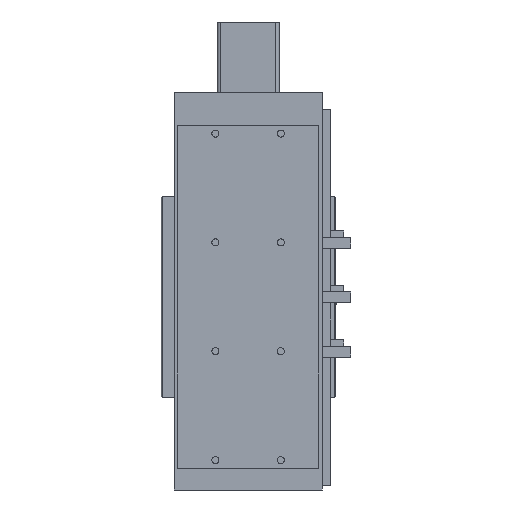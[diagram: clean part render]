
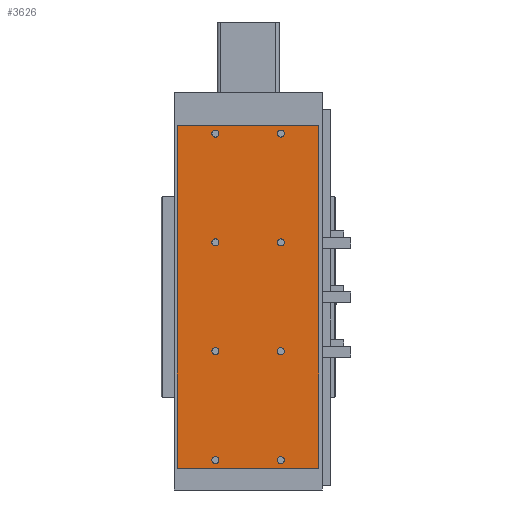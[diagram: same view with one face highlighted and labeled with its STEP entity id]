
A CAD part, front view. The second image highlights one B-rep face of the part: STEP entity #3626.
In plain terms, the highlighted planar face has unit normal (0, -1, 0).
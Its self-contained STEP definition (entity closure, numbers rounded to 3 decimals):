
#2145=CARTESIAN_POINT('',(-33.25,0.0,307.5));
#2146=VERTEX_POINT('',#2145);
#2147=CARTESIAN_POINT('',(-30.,0.0,307.5));
#2148=DIRECTION('',(0.0,1.0,0.0));
#2149=DIRECTION('',(1.0,0.0,0.0));
#2150=AXIS2_PLACEMENT_3D('',#2147,#2148,#2149);
#2151=CIRCLE('',#2150,3.25);
#2152=EDGE_CURVE('',#2146,#2146,#2151,.T.);
#2324=CARTESIAN_POINT('',(26.75,0.0,307.5));
#2325=VERTEX_POINT('',#2324);
#2326=CARTESIAN_POINT('',(30.,0.0,307.5));
#2327=DIRECTION('',(0.0,1.0,0.0));
#2328=DIRECTION('',(1.0,0.0,0.0));
#2329=AXIS2_PLACEMENT_3D('',#2326,#2327,#2328);
#2330=CIRCLE('',#2329,3.25);
#2331=EDGE_CURVE('',#2325,#2325,#2330,.T.);
#2365=CARTESIAN_POINT('',(-33.25,0.0,107.5));
#2366=VERTEX_POINT('',#2365);
#2367=CARTESIAN_POINT('',(-30.,0.0,107.5));
#2368=DIRECTION('',(0.0,1.0,0.0));
#2369=DIRECTION('',(1.0,0.0,0.0));
#2370=AXIS2_PLACEMENT_3D('',#2367,#2368,#2369);
#2371=CIRCLE('',#2370,3.25);
#2372=EDGE_CURVE('',#2366,#2366,#2371,.T.);
#2544=CARTESIAN_POINT('',(26.75,0.0,107.5));
#2545=VERTEX_POINT('',#2544);
#2546=CARTESIAN_POINT('',(30.,0.0,107.5));
#2547=DIRECTION('',(0.0,1.0,0.0));
#2548=DIRECTION('',(1.0,0.0,0.0));
#2549=AXIS2_PLACEMENT_3D('',#2546,#2547,#2548);
#2550=CIRCLE('',#2549,3.25);
#2551=EDGE_CURVE('',#2545,#2545,#2550,.T.);
#2585=CARTESIAN_POINT('',(-33.25,0.0,7.5));
#2586=VERTEX_POINT('',#2585);
#2587=CARTESIAN_POINT('',(-30.,0.0,7.5));
#2588=DIRECTION('',(0.0,1.0,0.0));
#2589=DIRECTION('',(1.0,0.0,0.0));
#2590=AXIS2_PLACEMENT_3D('',#2587,#2588,#2589);
#2591=CIRCLE('',#2590,3.25);
#2592=EDGE_CURVE('',#2586,#2586,#2591,.T.);
#2764=CARTESIAN_POINT('',(26.75,0.0,7.5));
#2765=VERTEX_POINT('',#2764);
#2766=CARTESIAN_POINT('',(30.,0.0,7.5));
#2767=DIRECTION('',(0.0,1.0,0.0));
#2768=DIRECTION('',(1.0,0.0,0.0));
#2769=AXIS2_PLACEMENT_3D('',#2766,#2767,#2768);
#2770=CIRCLE('',#2769,3.25);
#2771=EDGE_CURVE('',#2765,#2765,#2770,.T.);
#2874=CARTESIAN_POINT('',(26.75,0.0,207.5));
#2875=VERTEX_POINT('',#2874);
#2876=CARTESIAN_POINT('',(30.,0.0,207.5));
#2877=DIRECTION('',(0.0,1.0,0.0));
#2878=DIRECTION('',(1.0,0.0,0.0));
#2879=AXIS2_PLACEMENT_3D('',#2876,#2877,#2878);
#2880=CIRCLE('',#2879,3.25);
#2881=EDGE_CURVE('',#2875,#2875,#2880,.T.);
#2984=CARTESIAN_POINT('',(-33.25,0.0,207.5));
#2985=VERTEX_POINT('',#2984);
#2986=CARTESIAN_POINT('',(-30.,0.0,207.5));
#2987=DIRECTION('',(0.0,1.0,0.0));
#2988=DIRECTION('',(1.0,0.0,0.0));
#2989=AXIS2_PLACEMENT_3D('',#2986,#2987,#2988);
#2990=CIRCLE('',#2989,3.25);
#2991=EDGE_CURVE('',#2985,#2985,#2990,.T.);
#3318=CARTESIAN_POINT('',(65.0,0.0,0.0));
#3319=VERTEX_POINT('',#3318);
#3326=CARTESIAN_POINT('',(-65.0,0.0,0.0));
#3327=VERTEX_POINT('',#3326);
#3328=CARTESIAN_POINT('',(-65.0,0.0,0.0));
#3329=DIRECTION('',(1.0,0.0,0.0));
#3330=VECTOR('',#3329,130.0);
#3331=LINE('',#3328,#3330);
#3332=EDGE_CURVE('',#3327,#3319,#3331,.T.);
#3522=CARTESIAN_POINT('',(-65.0,0.0,315.0));
#3523=VERTEX_POINT('',#3522);
#3530=CARTESIAN_POINT('',(65.0,0.0,315.0));
#3531=VERTEX_POINT('',#3530);
#3532=CARTESIAN_POINT('',(65.0,0.0,315.0));
#3533=DIRECTION('',(-1.0,0.0,0.0));
#3534=VECTOR('',#3533,130.0);
#3535=LINE('',#3532,#3534);
#3536=EDGE_CURVE('',#3531,#3523,#3535,.T.);
#3559=CARTESIAN_POINT('',(-65.0,0.0,0.0));
#3560=DIRECTION('',(0.0,0.0,1.0));
#3561=VECTOR('',#3560,315.0);
#3562=LINE('',#3559,#3561);
#3563=EDGE_CURVE('',#3327,#3523,#3562,.T.);
#3581=CARTESIAN_POINT('',(65.0,0.0,0.0));
#3582=DIRECTION('',(0.0,0.0,1.0));
#3583=VECTOR('',#3582,315.0);
#3584=LINE('',#3581,#3583);
#3585=EDGE_CURVE('',#3319,#3531,#3584,.T.);
#3591=CARTESIAN_POINT('',(65.0,0.0,0.0));
#3592=DIRECTION('',(0.0,-1.0,0.0));
#3593=DIRECTION('',(0.0,0.0,-1.0));
#3594=AXIS2_PLACEMENT_3D('',#3591,#3592,#3593);
#3595=PLANE('',#3594);
#3596=ORIENTED_EDGE('',*,*,#3536,.T.);
#3597=ORIENTED_EDGE('',*,*,#3563,.F.);
#3598=ORIENTED_EDGE('',*,*,#3332,.T.);
#3599=ORIENTED_EDGE('',*,*,#3585,.T.);
#3600=EDGE_LOOP('',(#3596,#3597,#3598,#3599));
#3601=FACE_OUTER_BOUND('',#3600,.T.);
#3602=ORIENTED_EDGE('',*,*,#2152,.T.);
#3603=EDGE_LOOP('',(#3602));
#3604=FACE_BOUND('',#3603,.T.);
#3605=ORIENTED_EDGE('',*,*,#2331,.T.);
#3606=EDGE_LOOP('',(#3605));
#3607=FACE_BOUND('',#3606,.T.);
#3608=ORIENTED_EDGE('',*,*,#2372,.T.);
#3609=EDGE_LOOP('',(#3608));
#3610=FACE_BOUND('',#3609,.T.);
#3611=ORIENTED_EDGE('',*,*,#2551,.T.);
#3612=EDGE_LOOP('',(#3611));
#3613=FACE_BOUND('',#3612,.T.);
#3614=ORIENTED_EDGE('',*,*,#2592,.T.);
#3615=EDGE_LOOP('',(#3614));
#3616=FACE_BOUND('',#3615,.T.);
#3617=ORIENTED_EDGE('',*,*,#2771,.T.);
#3618=EDGE_LOOP('',(#3617));
#3619=FACE_BOUND('',#3618,.T.);
#3620=ORIENTED_EDGE('',*,*,#2881,.T.);
#3621=EDGE_LOOP('',(#3620));
#3622=FACE_BOUND('',#3621,.T.);
#3623=ORIENTED_EDGE('',*,*,#2991,.T.);
#3624=EDGE_LOOP('',(#3623));
#3625=FACE_BOUND('',#3624,.T.);
#3626=ADVANCED_FACE('',(#3601,#3604,#3607,#3610,#3613,#3616,#3619,#3622,#3625),#3595,.T.);
